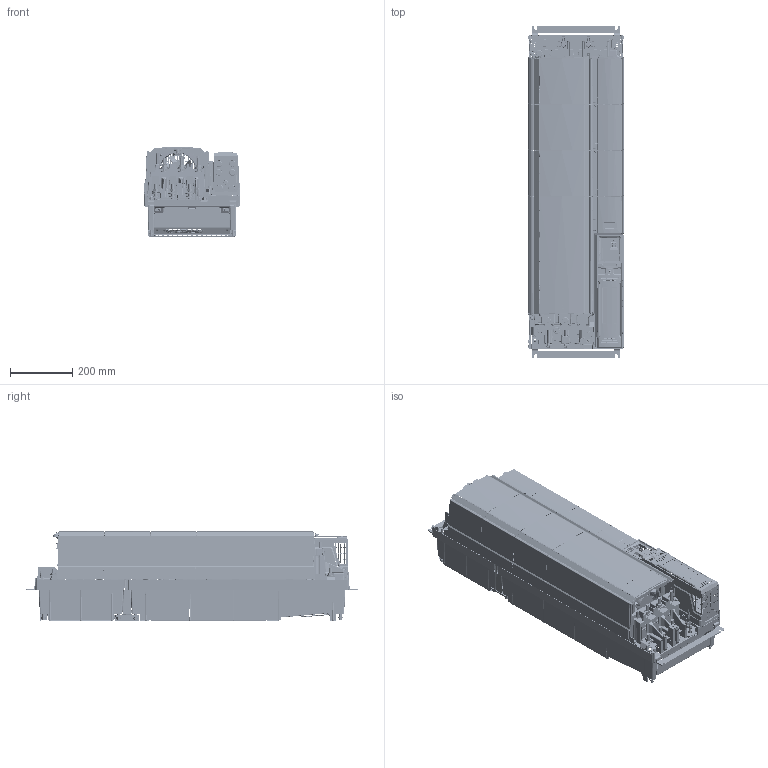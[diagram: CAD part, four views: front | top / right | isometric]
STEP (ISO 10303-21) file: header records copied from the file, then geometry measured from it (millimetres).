
FILE_DESCRIPTION((''),'2;1');
FILE_NAME('UNI-M_F10E_STEP_SW0007_NC','2015-01-27T',('coopst01'),(''),'PRO/ENGINEER BY PARAMETRIC TECHNOLOGY CORPORATION, 2011490','PRO/ENGINEER BY PARAMETRIC TECHNOLOGY CORPORATION, 2011490','');
FILE_SCHEMA(('CONFIG_CONTROL_DESIGN'));
Products named in the file (1): UNI-M_F10E_STEP_SW0007_NC
Bounding box: 310.01 x 1068.93 x 290.1 mm (x, y, z)
Surface area: 3623882.8 mm2 (no closed solid volume)
Topology: 0 solids, 1871 shells, 6769 faces, 44451 edges, 39019 vertices
Faces by surface type: plane 3284, cylinder 2099, bspline 531, cone 379, torus 354, extrusion 75, sphere 47
Entity records: 546212 total; most frequent: CARTESIAN_POINT 195313, DIRECTION 54792, ORIENTED_EDGE 51380, EDGE_CURVE 44429, VERTEX_POINT 39019, VECTOR 24730, LINE 24655, AXIS2_PLACEMENT_3D 15031
